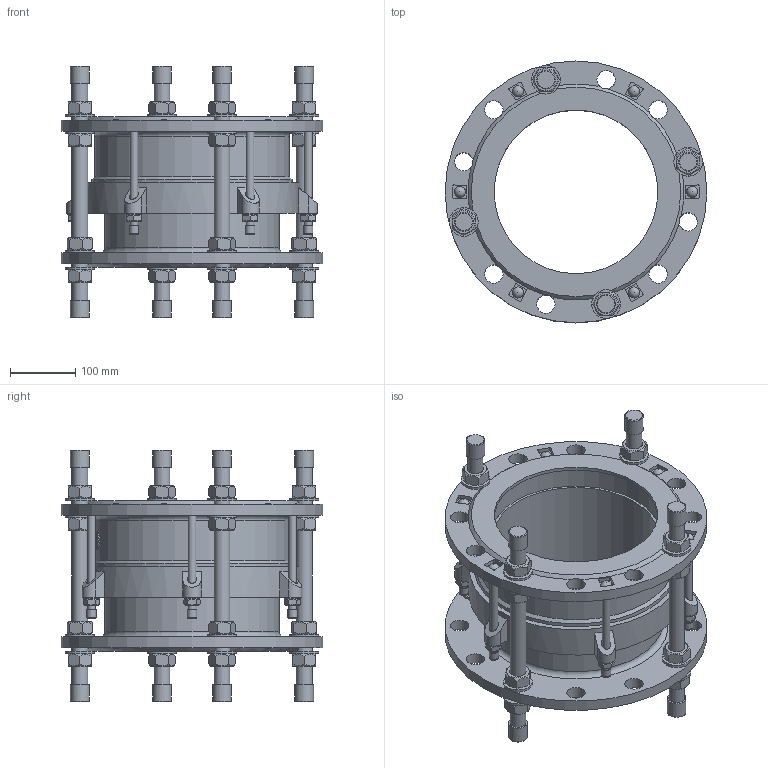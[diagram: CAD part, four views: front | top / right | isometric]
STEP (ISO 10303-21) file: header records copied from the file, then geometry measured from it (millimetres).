
FILE_DESCRIPTION(('STEP AP242'), '1');
FILE_NAME('Ìîíòàæíàÿ âñòàâêà', '', ('UNSPECIFIED'), ('UNSPECIFIED'), 'C3D Converter', 'C3D Toolkit', '');
FILE_SCHEMA(('AP242_MANAGED_MODEL_BASED_3D_ENGINEERING_MIM_LF { 1 0 10303 442 1 1 4 }'));
Length unit declared in the file: millimetre
Products named in the file (13): ШМ.М16.310
Assembly tree (72 placements, depth 2):
  (unnamed)
    (unnamed)
    (unnamed)
    (unnamed)
    (unnamed)  x16
    (unnamed)  x16
    ШМ.М16.310  x4
    (unnamed)  x8
    (unnamed)
    (unnamed)  x6
    (unnamed)  x6
    (unnamed)  x6
    (unnamed)  x6
Bounding box: 400 x 400 x 384.8 mm (x, y, z)
Volume: 6920618.9 mm3; surface area: 1443149 mm2
Topology: 72 solids, 72 shells, 788 faces, 1762 edges, 1122 vertices
Faces by surface type: plane 459, cylinder 187, cone 109, torus 16, extrusion 11, sphere 6
Full cylindrical faces by diameter (mm): 12 x18, 13 x6, 14 x6, 14.4 x6, 24 x34, 25 x16, 27.455 x1, 28 x24, 28.8 x8, 44 x16, 250 x2, 266 x2, 274 x2, 298 x1, 306 x1, 307 x1, 311 x1, 327 x1, 400 x2
Entity records: 18406 total; most frequent: CARTESIAN_POINT 8881, DIRECTION 1540, ORIENTED_EDGE 1372, EDGE_CURVE 686, AXIS2_PLACEMENT_3D 623, VERTEX_POINT 499, EDGE_LOOP 449, FACE_BOUND 331
